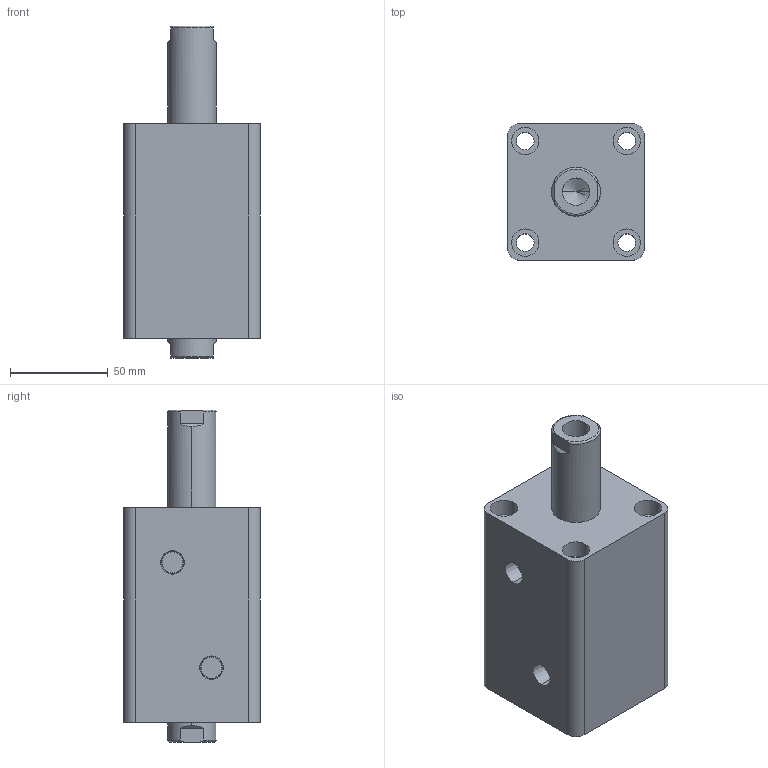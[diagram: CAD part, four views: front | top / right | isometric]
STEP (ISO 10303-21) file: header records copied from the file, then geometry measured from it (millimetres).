
FILE_DESCRIPTION (( 'STEP AP203' ), '1' );
FILE_NAME ('HTB-SW40-40N.STEP', '2019-10-07T09:07:37', ( '微软用户' ), ( '微软中国' ), 'SwSTEP 2.0', 'SolidWorks 2012', '' );
FILE_SCHEMA (( 'CONFIG_CONTROL_DESIGN' ));
Length unit declared in the file: millimetre
Products named in the file (3): HTB-SW40-40N; HTB-SW40-40N活塞杆; HTB-SW40-40掛极
Assembly tree (2 placements, depth 2):
  HTB-SW40-40N
    HTB-SW40-40掛极
    HTB-SW40-40N活塞杆
Bounding box: 70 x 70 x 170 mm (x, y, z)
Volume: 491543.7 mm3; surface area: 83111.8 mm2
Topology: 2 solids, 2 shells, 100 faces, 228 edges, 146 vertices
Faces by surface type: cylinder 48, plane 32, torus 12, cone 8
Entity records: 3237 total; most frequent: CARTESIAN_POINT 595, DIRECTION 542, ORIENTED_EDGE 448, AXIS2_PLACEMENT_3D 229, EDGE_CURVE 224, VERTEX_POINT 146, EDGE_LOOP 128, CIRCLE 124
